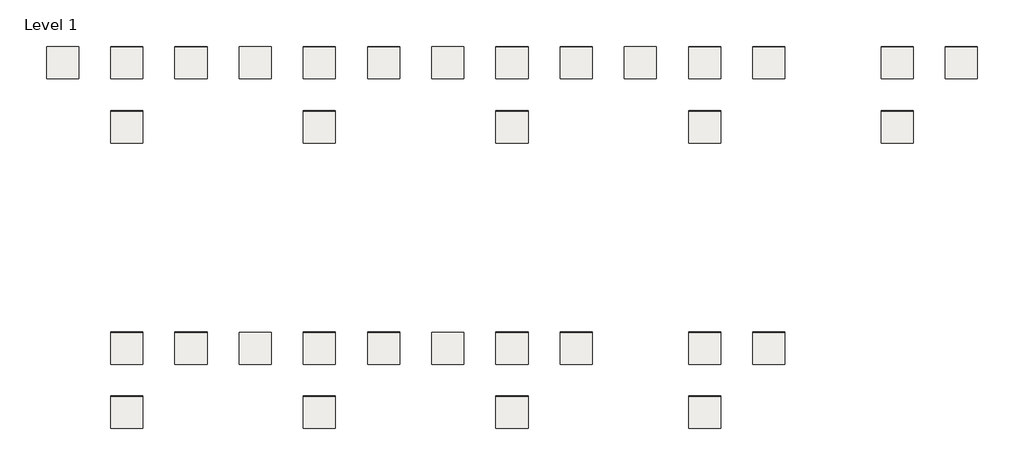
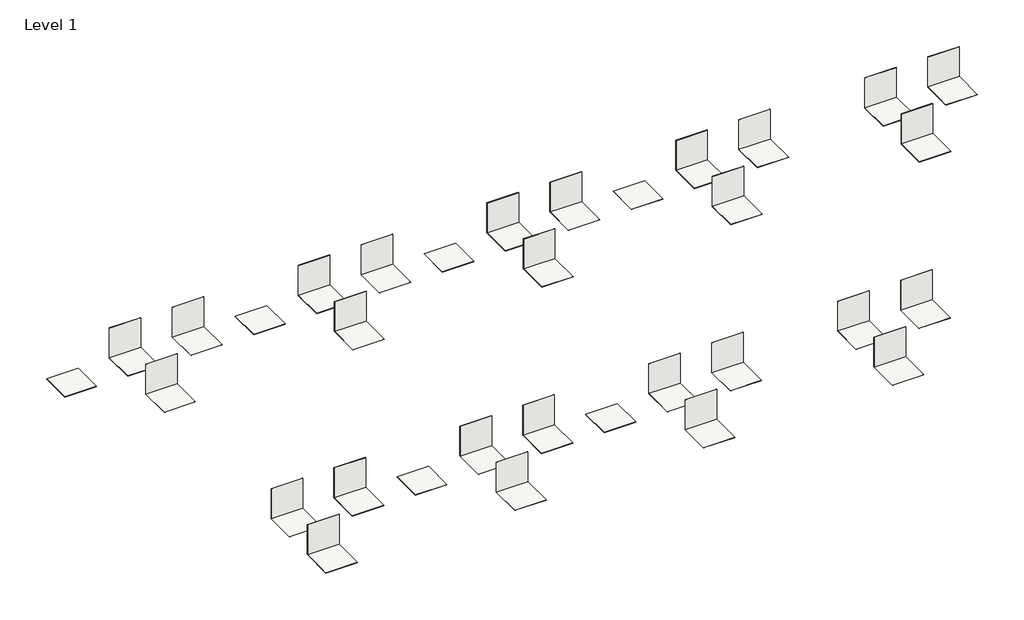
# One storey: 60 coverings.
"""IFC4 building model written with IfcOpenShell, lengths in millimetres."""

from ifc_helpers import new_model, si_unit, frame, origin, origin_with_axes, place, context, project, spatial, polyline, outline, extrude, element, save

model = new_model("IFC4")

# Units and contexts
model_context = context("Model", 3, world=origin())
ifc_project = project(units=[si_unit("LENGTHUNIT", "METRE", prefix="MILLI")], contexts=[model_context])

# Site, building, storey
site = spatial("IfcSite", under=ifc_project)
building = spatial("IfcBuilding", under=site)
storey = spatial("IfcBuildingStorey", under=building, Name="Level 1", Elevation=0.0)

# Coverings
placement = place(None, origin())
element("IfcCovering", 1, ObjectType="MARGRES-TIME 2.0-DECORATION-30X30_3,5X3,5-ASR-BEIGE", at=placement, inside=storey, context=model_context, shape_type="SweptSolid", body=[
    extrude(outline(polyline([(3235.4501166, -42895.5149512), (3235.4501166, -43895.5149512), (2235.4501166, -43895.5149512), (2235.4501166, -42895.5149512), (3235.4501166, -42895.5149512)])), frame((0.0, 0.0, -10.0), z_axis=(0.0, 0.0, 1.0), x_axis=(1.0, 0.0, 0.0)), (0.0, 0.0, 1.0), 10.0),
])
element("IfcCovering", 2, ObjectType="MARGRES-TIME 2.0-DECORATION-30X30_3,5X3,5-ASR-BLACK", at=placement, inside=storey, context=model_context, shape_type="SweptSolid", body=[
    extrude(outline(polyline([(9235.4501166, -42895.5149512), (9235.4501166, -43895.5149512), (8235.4501166, -43895.5149512), (8235.4501166, -42895.5149512), (9235.4501166, -42895.5149512)])), frame((0.0, 0.0, -10.0), z_axis=(0.0, 0.0, 1.0), x_axis=(1.0, 0.0, 0.0)), (0.0, 0.0, 1.0), 10.0),
])
element("IfcCovering", 3, ObjectType="MARGRES-TIME 2.0-DECORATION-30X30_3,5X3,5-ASR-CARBON", at=placement, inside=storey, context=model_context, shape_type="SweptSolid", body=[
    extrude(outline(polyline([(15235.4501166, -42895.5149512), (15235.4501166, -43895.5149512), (14235.4501166, -43895.5149512), (14235.4501166, -42895.5149512), (15235.4501166, -42895.5149512)])), frame((0.0, 0.0, -10.0), z_axis=(0.0, 0.0, 1.0), x_axis=(1.0, 0.0, 0.0)), (0.0, 0.0, 1.0), 10.0),
])
element("IfcCovering", 4, ObjectType="MARGRES-TIME 2.0-DECORATION-30X30_3,5X3,5-ASR-CREAM", at=placement, inside=storey, context=model_context, shape_type="SweptSolid", body=[
    extrude(outline(polyline([(21235.4501166, -42895.5149512), (21235.4501166, -43895.5149512), (20235.4501166, -43895.5149512), (20235.4501166, -42895.5149512), (21235.4501166, -42895.5149512)])), frame((0.0, 0.0, -10.0), z_axis=(0.0, 0.0, 1.0), x_axis=(1.0, 0.0, 0.0)), (0.0, 0.0, 1.0), 10.0),
])
element("IfcCovering", 5, ObjectType="MARGRES-TIME 2.0-DECORATION-30X30_3,5X3,5-ASR-SILVER", at=placement, inside=storey, context=model_context, shape_type="SweptSolid", body=[
    extrude(outline(polyline([(9235.4501166, -51795.5149512), (9235.4501166, -52795.5149512), (8235.4501166, -52795.5149512), (8235.4501166, -51795.5149512), (9235.4501166, -51795.5149512)])), frame((0.0, 0.0, -10.0), z_axis=(0.0, 0.0, 1.0), x_axis=(1.0, 0.0, 0.0)), (0.0, 0.0, 1.0), 10.0),
])
element("IfcCovering", 6, ObjectType="MARGRES-TIME 2.0-DECORATION-30X30_3,5X3,5-ASR-SNOW", at=placement, inside=storey, context=model_context, shape_type="SweptSolid", body=[
    extrude(outline(polyline([(15235.4501166, -51795.5149512), (15235.4501166, -52795.5149512), (14235.4501166, -52795.5149512), (14235.4501166, -51795.5149512), (15235.4501166, -51795.5149512)])), frame((0.0, 0.0, -10.0), z_axis=(0.0, 0.0, 1.0), x_axis=(1.0, 0.0, 0.0)), (0.0, 0.0, 1.0), 10.0),
])
element("IfcCovering", 7, ObjectType="MARGRES-TIME 2.0-DECORATION-30X30_3,5X3,5-NR-BEIGE", at=placement, inside=storey, context=model_context, shape_type="SweptSolid", body=[
    extrude(outline(polyline([(5235.4501166, -42895.5149512), (4235.4501166, -42895.5149512), (4235.4501166, -42885.5149512), (5235.4501166, -42885.5149512), (5235.4501166, -42895.5149512)])), origin_with_axes(), (0.0, 0.0, 1.0), 1000.0),
])
element("IfcCovering", 8, ObjectType="MARGRES-TIME 2.0-DECORATION-30X30_3,5X3,5-P-BEIGE", at=placement, inside=storey, context=model_context, shape_type="SweptSolid", body=[
    extrude(outline(polyline([(7235.4501166, -42895.5149512), (6235.4501166, -42895.5149512), (6235.4501166, -42886.0149512), (7235.4501166, -42886.0149512), (7235.4501166, -42895.5149512)])), origin_with_axes(), (0.0, 0.0, 1.0), 1000.0),
])
element("IfcCovering", 9, ObjectType="MARGRES-TIME 2.0-DECORATION-30X30_3,5X10-NR-BEIGE", at=placement, inside=storey, context=model_context, shape_type="SweptSolid", body=[
    extrude(outline(polyline([(5235.4501166, -44895.5149512), (4235.4501166, -44895.5149512), (4235.4501166, -44885.5149512), (5235.4501166, -44885.5149512), (5235.4501166, -44895.5149512)])), origin_with_axes(), (0.0, 0.0, 1.0), 1000.0),
])
element("IfcCovering", 10, ObjectType="MARGRES-TIME 2.0-DECORATION-30X30_3,5X3,5-NR-BLACK", at=placement, inside=storey, context=model_context, shape_type="SweptSolid", body=[
    extrude(outline(polyline([(11235.4501166, -42895.5149512), (10235.4501166, -42895.5149512), (10235.4501166, -42885.5149512), (11235.4501166, -42885.5149512), (11235.4501166, -42895.5149512)])), origin_with_axes(), (0.0, 0.0, 1.0), 1000.0),
])
element("IfcCovering", 11, ObjectType="MARGRES-TIME 2.0-DECORATION-30X30_3,5X3,5-P-BLACK", at=placement, inside=storey, context=model_context, shape_type="SweptSolid", body=[
    extrude(outline(polyline([(13235.4501166, -42895.5149512), (12235.4501166, -42895.5149512), (12235.4501166, -42886.0149512), (13235.4501166, -42886.0149512), (13235.4501166, -42895.5149512)])), origin_with_axes(), (0.0, 0.0, 1.0), 1000.0),
])
element("IfcCovering", 12, ObjectType="MARGRES-TIME 2.0-DECORATION-30X30_3,5X10-NR-BLACK", at=placement, inside=storey, context=model_context, shape_type="SweptSolid", body=[
    extrude(outline(polyline([(11235.4501166, -44895.5149512), (10235.4501166, -44895.5149512), (10235.4501166, -44885.5149512), (11235.4501166, -44885.5149512), (11235.4501166, -44895.5149512)])), origin_with_axes(), (0.0, 0.0, 1.0), 1000.0),
])
element("IfcCovering", 13, ObjectType="MARGRES-TIME 2.0-DECORATION-30X30_3,5X3,5-NR-CARBON", at=placement, inside=storey, context=model_context, shape_type="SweptSolid", body=[
    extrude(outline(polyline([(17235.4501166, -42895.5149512), (16235.4501166, -42895.5149512), (16235.4501166, -42885.5149512), (17235.4501166, -42885.5149512), (17235.4501166, -42895.5149512)])), origin_with_axes(), (0.0, 0.0, 1.0), 1000.0),
])
element("IfcCovering", 14, ObjectType="MARGRES-TIME 2.0-DECORATION-30X30_3,5X3,5-P-CARBON", at=placement, inside=storey, context=model_context, shape_type="SweptSolid", body=[
    extrude(outline(polyline([(19235.4501166, -42895.5149512), (18235.4501166, -42895.5149512), (18235.4501166, -42886.0149512), (19235.4501166, -42886.0149512), (19235.4501166, -42895.5149512)])), origin_with_axes(), (0.0, 0.0, 1.0), 1000.0),
])
element("IfcCovering", 15, ObjectType="MARGRES-TIME 2.0-DECORATION-30X30_3,5X10-NR-CARBON", at=placement, inside=storey, context=model_context, shape_type="SweptSolid", body=[
    extrude(outline(polyline([(17235.4501166, -44895.5149512), (16235.4501166, -44895.5149512), (16235.4501166, -44885.5149512), (17235.4501166, -44885.5149512), (17235.4501166, -44895.5149512)])), origin_with_axes(), (0.0, 0.0, 1.0), 1000.0),
])
element("IfcCovering", 16, ObjectType="MARGRES-TIME 2.0-DECORATION-30X30_3,5X3,5-NR-CREAM", at=placement, inside=storey, context=model_context, shape_type="SweptSolid", body=[
    extrude(outline(polyline([(23235.4501166, -42895.5149512), (22235.4501166, -42895.5149512), (22235.4501166, -42885.5149512), (23235.4501166, -42885.5149512), (23235.4501166, -42895.5149512)])), origin_with_axes(), (0.0, 0.0, 1.0), 1000.0),
])
element("IfcCovering", 17, ObjectType="MARGRES-TIME 2.0-DECORATION-30X30_3,5X3,5-P-CREAM", at=placement, inside=storey, context=model_context, shape_type="SweptSolid", body=[
    extrude(outline(polyline([(25235.4501166, -42895.5149512), (24235.4501166, -42895.5149512), (24235.4501166, -42886.0149512), (25235.4501166, -42886.0149512), (25235.4501166, -42895.5149512)])), origin_with_axes(), (0.0, 0.0, 1.0), 1000.0),
])
element("IfcCovering", 18, ObjectType="MARGRES-TIME 2.0-DECORATION-30X30_3,5X10-NR-CREAM", at=placement, inside=storey, context=model_context, shape_type="SweptSolid", body=[
    extrude(outline(polyline([(23235.4501166, -44895.5149512), (22235.4501166, -44895.5149512), (22235.4501166, -44885.5149512), (23235.4501166, -44885.5149512), (23235.4501166, -44895.5149512)])), origin_with_axes(), (0.0, 0.0, 1.0), 1000.0),
])
element("IfcCovering", 19, ObjectType="MARGRES-TIME 2.0-DECORATION-30X30_3,5X3,5-NR-DOVE", at=placement, inside=storey, context=model_context, shape_type="SweptSolid", body=[
    extrude(outline(polyline([(29235.4501166, -42895.5149512), (28235.4501166, -42895.5149512), (28235.4501166, -42885.5149512), (29235.4501166, -42885.5149512), (29235.4501166, -42895.5149512)])), origin_with_axes(), (0.0, 0.0, 1.0), 1000.0),
])
element("IfcCovering", 20, ObjectType="MARGRES-TIME 2.0-DECORATION-30X30_3,5X3,5-P-DOVE", at=placement, inside=storey, context=model_context, shape_type="SweptSolid", body=[
    extrude(outline(polyline([(31235.4501166, -42895.5149512), (30235.4501166, -42895.5149512), (30235.4501166, -42886.0149512), (31235.4501166, -42886.0149512), (31235.4501166, -42895.5149512)])), origin_with_axes(), (0.0, 0.0, 1.0), 1000.0),
])
element("IfcCovering", 21, ObjectType="MARGRES-TIME 2.0-DECORATION-30X30_3,5X10-NR-DOVE", at=placement, inside=storey, context=model_context, shape_type="SweptSolid", body=[
    extrude(outline(polyline([(29235.4501166, -44895.5149512), (28235.4501166, -44895.5149512), (28235.4501166, -44885.5149512), (29235.4501166, -44885.5149512), (29235.4501166, -44895.5149512)])), origin_with_axes(), (0.0, 0.0, 1.0), 1000.0),
])
element("IfcCovering", 22, ObjectType="MARGRES-TIME 2.0-DECORATION-30X30_3,5X3,5-NR-GREY", at=placement, inside=storey, context=model_context, shape_type="SweptSolid", body=[
    extrude(outline(polyline([(5235.4501166, -51795.5149512), (4235.4501166, -51795.5149512), (4235.4501166, -51785.5149512), (5235.4501166, -51785.5149512), (5235.4501166, -51795.5149512)])), origin_with_axes(), (0.0, 0.0, 1.0), 1000.0),
])
element("IfcCovering", 23, ObjectType="MARGRES-TIME 2.0-DECORATION-30X30_3,5X3,5-P-GREY", at=placement, inside=storey, context=model_context, shape_type="SweptSolid", body=[
    extrude(outline(polyline([(7235.4501166, -51795.5149512), (6235.4501166, -51795.5149512), (6235.4501166, -51786.0149512), (7235.4501166, -51786.0149512), (7235.4501166, -51795.5149512)])), origin_with_axes(), (0.0, 0.0, 1.0), 1000.0),
])
element("IfcCovering", 24, ObjectType="MARGRES-TIME 2.0-DECORATION-30X30_3,5X10-NR-GREY", at=placement, inside=storey, context=model_context, shape_type="SweptSolid", body=[
    extrude(outline(polyline([(5235.4501166, -53795.5149512), (4235.4501166, -53795.5149512), (4235.4501166, -53785.5149512), (5235.4501166, -53785.5149512), (5235.4501166, -53795.5149512)])), origin_with_axes(), (0.0, 0.0, 1.0), 1000.0),
])
element("IfcCovering", 25, ObjectType="MARGRES-TIME 2.0-DECORATION-30X30_3,5X3,5-NR-SILVER", at=placement, inside=storey, context=model_context, shape_type="SweptSolid", body=[
    extrude(outline(polyline([(11235.4501166, -51795.5149512), (10235.4501166, -51795.5149512), (10235.4501166, -51785.5149512), (11235.4501166, -51785.5149512), (11235.4501166, -51795.5149512)])), origin_with_axes(), (0.0, 0.0, 1.0), 1000.0),
])
element("IfcCovering", 26, ObjectType="MARGRES-TIME 2.0-DECORATION-30X30_3,5X3,5-P-SILVER", at=placement, inside=storey, context=model_context, shape_type="SweptSolid", body=[
    extrude(outline(polyline([(13235.4501166, -51795.5149512), (12235.4501166, -51795.5149512), (12235.4501166, -51786.0149512), (13235.4501166, -51786.0149512), (13235.4501166, -51795.5149512)])), origin_with_axes(), (0.0, 0.0, 1.0), 1000.0),
])
element("IfcCovering", 27, ObjectType="MARGRES-TIME 2.0-DECORATION-30X30_3,5X10-NR-SILVER", at=placement, inside=storey, context=model_context, shape_type="SweptSolid", body=[
    extrude(outline(polyline([(11235.4501166, -53795.5149512), (10235.4501166, -53795.5149512), (10235.4501166, -53785.5149512), (11235.4501166, -53785.5149512), (11235.4501166, -53795.5149512)])), origin_with_axes(), (0.0, 0.0, 1.0), 1000.0),
])
element("IfcCovering", 28, ObjectType="MARGRES-TIME 2.0-DECORATION-30X30_3,5X3,5-NR-SNOW", at=placement, inside=storey, context=model_context, shape_type="SweptSolid", body=[
    extrude(outline(polyline([(17235.4501166, -51795.5149512), (16235.4501166, -51795.5149512), (16235.4501166, -51785.5149512), (17235.4501166, -51785.5149512), (17235.4501166, -51795.5149512)])), origin_with_axes(), (0.0, 0.0, 1.0), 1000.0),
])
element("IfcCovering", 29, ObjectType="MARGRES-TIME 2.0-DECORATION-30X30_3,5X3,5-P-SNOW", at=placement, inside=storey, context=model_context, shape_type="SweptSolid", body=[
    extrude(outline(polyline([(19235.4501166, -51795.5149512), (18235.4501166, -51795.5149512), (18235.4501166, -51786.0149512), (19235.4501166, -51786.0149512), (19235.4501166, -51795.5149512)])), origin_with_axes(), (0.0, 0.0, 1.0), 1000.0),
])
element("IfcCovering", 30, ObjectType="MARGRES-TIME 2.0-DECORATION-30X30_3,5X10-NR-SNOW", at=placement, inside=storey, context=model_context, shape_type="SweptSolid", body=[
    extrude(outline(polyline([(17235.4501166, -53795.5149512), (16235.4501166, -53795.5149512), (16235.4501166, -53785.5149512), (17235.4501166, -53785.5149512), (17235.4501166, -53795.5149512)])), origin_with_axes(), (0.0, 0.0, 1.0), 1000.0),
])
element("IfcCovering", 31, ObjectType="MARGRES-TIME 2.0-DECORATION-30X30_3,5X3,5-NR-WHITE", at=placement, inside=storey, context=model_context, shape_type="SweptSolid", body=[
    extrude(outline(polyline([(23235.4501166, -51795.5149512), (22235.4501166, -51795.5149512), (22235.4501166, -51785.5149512), (23235.4501166, -51785.5149512), (23235.4501166, -51795.5149512)])), origin_with_axes(), (0.0, 0.0, 1.0), 1000.0),
])
element("IfcCovering", 32, ObjectType="MARGRES-TIME 2.0-DECORATION-30X30_3,5X3,5-P-WHITE", at=placement, inside=storey, context=model_context, shape_type="SweptSolid", body=[
    extrude(outline(polyline([(25235.4501166, -51795.5149512), (24235.4501166, -51795.5149512), (24235.4501166, -51786.0149512), (25235.4501166, -51786.0149512), (25235.4501166, -51795.5149512)])), origin_with_axes(), (0.0, 0.0, 1.0), 1000.0),
])
element("IfcCovering", 33, ObjectType="MARGRES-TIME 2.0-DECORATION-30X30_3,5X10-NR-WHITE", at=placement, inside=storey, context=model_context, shape_type="SweptSolid", body=[
    extrude(outline(polyline([(23235.4501166, -53795.5149512), (22235.4501166, -53795.5149512), (22235.4501166, -53785.5149512), (23235.4501166, -53785.5149512), (23235.4501166, -53795.5149512)])), origin_with_axes(), (0.0, 0.0, 1.0), 1000.0),
])
element("IfcCovering", 34, ObjectType="MARGRES-TIME 2.0-DECORATION-30X30_3,5X3,5-NR-SNOW", at=placement, inside=storey, context=model_context, shape_type="SweptSolid", body=[
    extrude(outline(polyline([(17235.4501166, -51795.5149512), (17235.4501166, -52795.5149512), (16235.4501166, -52795.5149512), (16235.4501166, -51795.5149512), (17235.4501166, -51795.5149512)])), frame((0.0, 0.0, -10.0), z_axis=(0.0, 0.0, 1.0), x_axis=(1.0, 0.0, 0.0)), (0.0, 0.0, 1.0), 10.0),
])
element("IfcCovering", 35, ObjectType="MARGRES-TIME 2.0-DECORATION-30X30_3,5X10-NR-SNOW", at=placement, inside=storey, context=model_context, shape_type="SweptSolid", body=[
    extrude(outline(polyline([(17235.4501166, -53795.5149512), (17235.4501166, -54795.5149512), (16235.4501166, -54795.5149512), (16235.4501166, -53795.5149512), (17235.4501166, -53795.5149512)])), frame((0.0, 0.0, -10.0), z_axis=(0.0, 0.0, 1.0), x_axis=(1.0, 0.0, 0.0)), (0.0, 0.0, 1.0), 10.0),
])
element("IfcCovering", 36, ObjectType="MARGRES-TIME 2.0-DECORATION-30X30_3,5X3,5-P-SNOW", at=placement, inside=storey, context=model_context, shape_type="SweptSolid", body=[
    extrude(outline(polyline([(19235.4501166, -51795.5149512), (19235.4501166, -52795.5149512), (18235.4501166, -52795.5149512), (18235.4501166, -51795.5149512), (19235.4501166, -51795.5149512)])), frame((0.0, 0.0, -9.5), z_axis=(0.0, 0.0, 1.0), x_axis=(1.0, 0.0, 0.0)), (0.0, 0.0, 1.0), 9.5),
])
element("IfcCovering", 37, ObjectType="MARGRES-TIME 2.0-DECORATION-30X30_3,5X3,5-NR-WHITE", at=placement, inside=storey, context=model_context, shape_type="SweptSolid", body=[
    extrude(outline(polyline([(23235.4501166, -51795.5149512), (23235.4501166, -52795.5149512), (22235.4501166, -52795.5149512), (22235.4501166, -51795.5149512), (23235.4501166, -51795.5149512)])), frame((0.0, 0.0, -10.0), z_axis=(0.0, 0.0, 1.0), x_axis=(1.0, 0.0, 0.0)), (0.0, 0.0, 1.0), 10.0),
])
element("IfcCovering", 38, ObjectType="MARGRES-TIME 2.0-DECORATION-30X30_3,5X3,5-P-WHITE", at=placement, inside=storey, context=model_context, shape_type="SweptSolid", body=[
    extrude(outline(polyline([(25235.4501166, -51795.5149512), (25235.4501166, -52795.5149512), (24235.4501166, -52795.5149512), (24235.4501166, -51795.5149512), (25235.4501166, -51795.5149512)])), frame((0.0, 0.0, -9.5), z_axis=(0.0, 0.0, 1.0), x_axis=(1.0, 0.0, 0.0)), (0.0, 0.0, 1.0), 9.5),
])
element("IfcCovering", 39, ObjectType="MARGRES-TIME 2.0-DECORATION-30X30_3,5X10-NR-WHITE", at=placement, inside=storey, context=model_context, shape_type="SweptSolid", body=[
    extrude(outline(polyline([(23235.4501166, -53795.5149512), (23235.4501166, -54795.5149512), (22235.4501166, -54795.5149512), (22235.4501166, -53795.5149512), (23235.4501166, -53795.5149512)])), frame((0.0, 0.0, -10.0), z_axis=(0.0, 0.0, 1.0), x_axis=(1.0, 0.0, 0.0)), (0.0, 0.0, 1.0), 10.0),
])
element("IfcCovering", 40, ObjectType="MARGRES-TIME 2.0-DECORATION-30X30_3,5X3,5-NR-CREAM", at=placement, inside=storey, context=model_context, shape_type="SweptSolid", body=[
    extrude(outline(polyline([(23235.4501166, -42895.5149512), (23235.4501166, -43895.5149512), (22235.4501166, -43895.5149512), (22235.4501166, -42895.5149512), (23235.4501166, -42895.5149512)])), frame((0.0, 0.0, -10.0), z_axis=(0.0, 0.0, 1.0), x_axis=(1.0, 0.0, 0.0)), (0.0, 0.0, 1.0), 10.0),
])
element("IfcCovering", 41, ObjectType="MARGRES-TIME 2.0-DECORATION-30X30_3,5X10-NR-CREAM", at=placement, inside=storey, context=model_context, shape_type="SweptSolid", body=[
    extrude(outline(polyline([(23235.4501166, -44895.5149512), (23235.4501166, -45895.5149512), (22235.4501166, -45895.5149512), (22235.4501166, -44895.5149512), (23235.4501166, -44895.5149512)])), frame((0.0, 0.0, -10.0), z_axis=(0.0, 0.0, 1.0), x_axis=(1.0, 0.0, 0.0)), (0.0, 0.0, 1.0), 10.0),
])
element("IfcCovering", 42, ObjectType="MARGRES-TIME 2.0-DECORATION-30X30_3,5X3,5-P-BEIGE", at=placement, inside=storey, context=model_context, shape_type="SweptSolid", body=[
    extrude(outline(polyline([(7235.4501166, -42895.5149512), (7235.4501166, -43895.5149512), (6235.4501166, -43895.5149512), (6235.4501166, -42895.5149512), (7235.4501166, -42895.5149512)])), frame((0.0, 0.0, -9.5), z_axis=(0.0, 0.0, 1.0), x_axis=(1.0, 0.0, 0.0)), (0.0, 0.0, 1.0), 9.5),
])
element("IfcCovering", 43, ObjectType="MARGRES-TIME 2.0-DECORATION-30X30_3,5X3,5-NR-BEIGE", at=placement, inside=storey, context=model_context, shape_type="SweptSolid", body=[
    extrude(outline(polyline([(5235.4501166, -42895.5149512), (5235.4501166, -43895.5149512), (4235.4501166, -43895.5149512), (4235.4501166, -42895.5149512), (5235.4501166, -42895.5149512)])), frame((0.0, 0.0, -10.0), z_axis=(0.0, 0.0, 1.0), x_axis=(1.0, 0.0, 0.0)), (0.0, 0.0, 1.0), 10.0),
])
element("IfcCovering", 44, ObjectType="MARGRES-TIME 2.0-DECORATION-30X30_3,5X10-NR-BEIGE", at=placement, inside=storey, context=model_context, shape_type="SweptSolid", body=[
    extrude(outline(polyline([(5235.4501166, -44895.5149512), (5235.4501166, -45895.5149512), (4235.4501166, -45895.5149512), (4235.4501166, -44895.5149512), (5235.4501166, -44895.5149512)])), frame((0.0, 0.0, -10.0), z_axis=(0.0, 0.0, 1.0), x_axis=(1.0, 0.0, 0.0)), (0.0, 0.0, 1.0), 10.0),
])
element("IfcCovering", 45, ObjectType="MARGRES-TIME 2.0-DECORATION-30X30_3,5X3,5-NR-DOVE", at=placement, inside=storey, context=model_context, shape_type="SweptSolid", body=[
    extrude(outline(polyline([(29235.4501166, -42895.5149512), (29235.4501166, -43895.5149512), (28235.4501166, -43895.5149512), (28235.4501166, -42895.5149512), (29235.4501166, -42895.5149512)])), frame((0.0, 0.0, -10.0), z_axis=(0.0, 0.0, 1.0), x_axis=(1.0, 0.0, 0.0)), (0.0, 0.0, 1.0), 10.0),
])
element("IfcCovering", 46, ObjectType="MARGRES-TIME 2.0-DECORATION-30X30_3,5X10-NR-DOVE", at=placement, inside=storey, context=model_context, shape_type="SweptSolid", body=[
    extrude(outline(polyline([(29235.4501166, -44895.5149512), (29235.4501166, -45895.5149512), (28235.4501166, -45895.5149512), (28235.4501166, -44895.5149512), (29235.4501166, -44895.5149512)])), frame((0.0, 0.0, -10.0), z_axis=(0.0, 0.0, 1.0), x_axis=(1.0, 0.0, 0.0)), (0.0, 0.0, 1.0), 10.0),
])
element("IfcCovering", 47, ObjectType="MARGRES-TIME 2.0-DECORATION-30X30_3,5X3,5-P-DOVE", at=placement, inside=storey, context=model_context, shape_type="SweptSolid", body=[
    extrude(outline(polyline([(31235.4501166, -42895.5149512), (31235.4501166, -43895.5149512), (30235.4501166, -43895.5149512), (30235.4501166, -42895.5149512), (31235.4501166, -42895.5149512)])), frame((0.0, 0.0, -9.5), z_axis=(0.0, 0.0, 1.0), x_axis=(1.0, 0.0, 0.0)), (0.0, 0.0, 1.0), 9.5),
])
element("IfcCovering", 48, ObjectType="MARGRES-TIME 2.0-DECORATION-30X30_3,5X3,5-NR-SILVER", at=placement, inside=storey, context=model_context, shape_type="SweptSolid", body=[
    extrude(outline(polyline([(11235.4501166, -51795.5149512), (11235.4501166, -52795.5149512), (10235.4501166, -52795.5149512), (10235.4501166, -51795.5149512), (11235.4501166, -51795.5149512)])), frame((0.0, 0.0, -10.0), z_axis=(0.0, 0.0, 1.0), x_axis=(1.0, 0.0, 0.0)), (0.0, 0.0, 1.0), 10.0),
])
element("IfcCovering", 49, ObjectType="MARGRES-TIME 2.0-DECORATION-30X30_3,5X10-NR-SILVER", at=placement, inside=storey, context=model_context, shape_type="SweptSolid", body=[
    extrude(outline(polyline([(11235.4501166, -53795.5149512), (11235.4501166, -54795.5149512), (10235.4501166, -54795.5149512), (10235.4501166, -53795.5149512), (11235.4501166, -53795.5149512)])), frame((0.0, 0.0, -10.0), z_axis=(0.0, 0.0, 1.0), x_axis=(1.0, 0.0, 0.0)), (0.0, 0.0, 1.0), 10.0),
])
element("IfcCovering", 50, ObjectType="MARGRES-TIME 2.0-DECORATION-30X30_3,5X3,5-P-SILVER", at=placement, inside=storey, context=model_context, shape_type="SweptSolid", body=[
    extrude(outline(polyline([(13235.4501166, -51795.5149512), (13235.4501166, -52795.5149512), (12235.4501166, -52795.5149512), (12235.4501166, -51795.5149512), (13235.4501166, -51795.5149512)])), frame((0.0, 0.0, -9.5), z_axis=(0.0, 0.0, 1.0), x_axis=(1.0, 0.0, 0.0)), (0.0, 0.0, 1.0), 9.5),
])
element("IfcCovering", 51, ObjectType="MARGRES-TIME 2.0-DECORATION-30X30_3,5X3,5-NR-GREY", at=placement, inside=storey, context=model_context, shape_type="SweptSolid", body=[
    extrude(outline(polyline([(5235.4501166, -51795.5149512), (5235.4501166, -52795.5149512), (4235.4501166, -52795.5149512), (4235.4501166, -51795.5149512), (5235.4501166, -51795.5149512)])), frame((0.0, 0.0, -10.0), z_axis=(0.0, 0.0, 1.0), x_axis=(1.0, 0.0, 0.0)), (0.0, 0.0, 1.0), 10.0),
])
element("IfcCovering", 52, ObjectType="MARGRES-TIME 2.0-DECORATION-30X30_3,5X10-NR-GREY", at=placement, inside=storey, context=model_context, shape_type="SweptSolid", body=[
    extrude(outline(polyline([(5235.4501166, -53795.5149512), (5235.4501166, -54795.5149512), (4235.4501166, -54795.5149512), (4235.4501166, -53795.5149512), (5235.4501166, -53795.5149512)])), frame((0.0, 0.0, -10.0), z_axis=(0.0, 0.0, 1.0), x_axis=(1.0, 0.0, 0.0)), (0.0, 0.0, 1.0), 10.0),
])
element("IfcCovering", 53, ObjectType="MARGRES-TIME 2.0-DECORATION-30X30_3,5X3,5-P-GREY", at=placement, inside=storey, context=model_context, shape_type="SweptSolid", body=[
    extrude(outline(polyline([(7235.4501166, -51795.5149512), (7235.4501166, -52795.5149512), (6235.4501166, -52795.5149512), (6235.4501166, -51795.5149512), (7235.4501166, -51795.5149512)])), frame((0.0, 0.0, -9.5), z_axis=(0.0, 0.0, 1.0), x_axis=(1.0, 0.0, 0.0)), (0.0, 0.0, 1.0), 9.5),
])
element("IfcCovering", 54, ObjectType="MARGRES-TIME 2.0-DECORATION-30X30_3,5X3,5-NR-CARBON", at=placement, inside=storey, context=model_context, shape_type="SweptSolid", body=[
    extrude(outline(polyline([(17235.4501166, -42895.5149512), (17235.4501166, -43895.5149512), (16235.4501166, -43895.5149512), (16235.4501166, -42895.5149512), (17235.4501166, -42895.5149512)])), frame((0.0, 0.0, -10.0), z_axis=(0.0, 0.0, 1.0), x_axis=(1.0, 0.0, 0.0)), (0.0, 0.0, 1.0), 10.0),
])
element("IfcCovering", 55, ObjectType="MARGRES-TIME 2.0-DECORATION-30X30_3,5X10-NR-CARBON", at=placement, inside=storey, context=model_context, shape_type="SweptSolid", body=[
    extrude(outline(polyline([(17235.4501166, -44895.5149512), (17235.4501166, -45895.5149512), (16235.4501166, -45895.5149512), (16235.4501166, -44895.5149512), (17235.4501166, -44895.5149512)])), frame((0.0, 0.0, -10.0), z_axis=(0.0, 0.0, 1.0), x_axis=(1.0, 0.0, 0.0)), (0.0, 0.0, 1.0), 10.0),
])
element("IfcCovering", 56, ObjectType="MARGRES-TIME 2.0-DECORATION-30X30_3,5X3,5-P-CARBON", at=placement, inside=storey, context=model_context, shape_type="SweptSolid", body=[
    extrude(outline(polyline([(19235.4501166, -42895.5149512), (19235.4501166, -43895.5149512), (18235.4501166, -43895.5149512), (18235.4501166, -42895.5149512), (19235.4501166, -42895.5149512)])), frame((0.0, 0.0, -9.5), z_axis=(0.0, 0.0, 1.0), x_axis=(1.0, 0.0, 0.0)), (0.0, 0.0, 1.0), 9.5),
])
element("IfcCovering", 57, ObjectType="MARGRES-TIME 2.0-DECORATION-30X30_3,5X3,5-NR-BLACK", at=placement, inside=storey, context=model_context, shape_type="SweptSolid", body=[
    extrude(outline(polyline([(11235.4501166, -42895.5149512), (11235.4501166, -43895.5149512), (10235.4501166, -43895.5149512), (10235.4501166, -42895.5149512), (11235.4501166, -42895.5149512)])), frame((0.0, 0.0, -10.0), z_axis=(0.0, 0.0, 1.0), x_axis=(1.0, 0.0, 0.0)), (0.0, 0.0, 1.0), 10.0),
])
element("IfcCovering", 58, ObjectType="MARGRES-TIME 2.0-DECORATION-30X30_3,5X10-NR-BLACK", at=placement, inside=storey, context=model_context, shape_type="SweptSolid", body=[
    extrude(outline(polyline([(11235.4501166, -44895.5149512), (11235.4501166, -45895.5149512), (10235.4501166, -45895.5149512), (10235.4501166, -44895.5149512), (11235.4501166, -44895.5149512)])), frame((0.0, 0.0, -10.0), z_axis=(0.0, 0.0, 1.0), x_axis=(1.0, 0.0, 0.0)), (0.0, 0.0, 1.0), 10.0),
])
element("IfcCovering", 59, ObjectType="MARGRES-TIME 2.0-DECORATION-30X30_3,5X3,5-P-BLACK", at=placement, inside=storey, context=model_context, shape_type="SweptSolid", body=[
    extrude(outline(polyline([(13235.4501166, -42895.5149512), (13235.4501166, -43895.5149512), (12235.4501166, -43895.5149512), (12235.4501166, -42895.5149512), (13235.4501166, -42895.5149512)])), frame((0.0, 0.0, -9.5), z_axis=(0.0, 0.0, 1.0), x_axis=(1.0, 0.0, 0.0)), (0.0, 0.0, 1.0), 9.5),
])
element("IfcCovering", 60, ObjectType="MARGRES-TIME 2.0-DECORATION-30X30_3,5X3,5-P-CREAM", at=placement, inside=storey, context=model_context, shape_type="SweptSolid", body=[
    extrude(outline(polyline([(25235.4501166, -42895.5149512), (25235.4501166, -43895.5149512), (24235.4501166, -43895.5149512), (24235.4501166, -42895.5149512), (25235.4501166, -42895.5149512)])), frame((0.0, 0.0, -9.5), z_axis=(0.0, 0.0, 1.0), x_axis=(1.0, 0.0, 0.0)), (0.0, 0.0, 1.0), 9.5),
])

save(model, "model.ifc")
